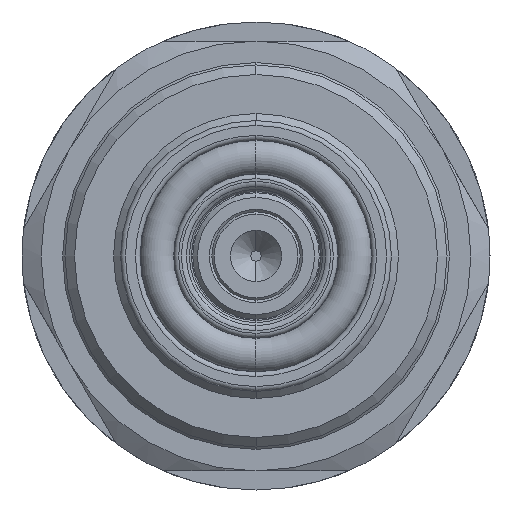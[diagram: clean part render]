
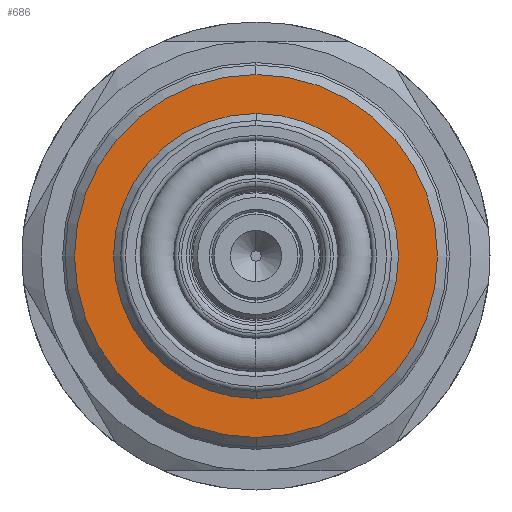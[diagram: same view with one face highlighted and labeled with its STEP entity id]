
A CAD part, left-side view. The second image highlights one B-rep face of the part: STEP entity #686.
In plain terms, the highlighted planar face has unit normal (-1, 0, 0).
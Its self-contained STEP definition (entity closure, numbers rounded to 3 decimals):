
#83 = CIRCLE ( 'NONE', #950, 5.969 ) ;
#95 = CIRCLE ( 'NONE', #984, 7.6 ) ;
#107 = CIRCLE ( 'NONE', #975, 7.6 ) ;
#190 = FACE_OUTER_BOUND ( 'NONE', #3628, .T. ) ;
#206 = FACE_BOUND ( 'NONE', #3635, .T. ) ;
#686 = ADVANCED_FACE ( 'NONE', ( #206, #190 ), #1120, .T. ) ;
#950 = AXIS2_PLACEMENT_3D ( 'NONE', #2659, #2660, #2663 ) ;
#959 = AXIS2_PLACEMENT_3D ( 'NONE', #2722, #2725, #2727 ) ;
#975 = AXIS2_PLACEMENT_3D ( 'NONE', #2591, #2594, #2595 ) ;
#984 = AXIS2_PLACEMENT_3D ( 'NONE', #2634, #2635, #2656 ) ;
#1092 = DIRECTION ( 'NONE',  ( -1., 0., 0. ) ) ;
#1104 = CARTESIAN_POINT ( 'NONE',  ( -1.503, 0., 0. ) ) ;
#1113 = DIRECTION ( 'NONE',  ( 0., 0., 1. ) ) ;
#1120 = PLANE ( 'NONE',  #1993 ) ;
#1593 = CIRCLE ( 'NONE', #959, 5.969 ) ;
#1993 = AXIS2_PLACEMENT_3D ( 'NONE', #1104, #1092, #1113 ) ;
#2142 = ORIENTED_EDGE ( 'NONE', *, *, #2429, .F. ) ;
#2149 = ORIENTED_EDGE ( 'NONE', *, *, #2416, .F. ) ;
#2166 = ORIENTED_EDGE ( 'NONE', *, *, #2427, .T. ) ;
#2176 = ORIENTED_EDGE ( 'NONE', *, *, #2461, .T. ) ;
#2416 = EDGE_CURVE ( 'NONE', #3398, #3407, #107, .T. ) ;
#2427 = EDGE_CURVE ( 'NONE', #3404, #3391, #83, .T. ) ;
#2429 = EDGE_CURVE ( 'NONE', #3407, #3398, #95, .T. ) ;
#2461 = EDGE_CURVE ( 'NONE', #3391, #3404, #1593, .T. ) ;
#2591 = CARTESIAN_POINT ( 'NONE',  ( -1.503, 0., 0. ) ) ;
#2594 = DIRECTION ( 'NONE',  ( 1., 0., 0. ) ) ;
#2595 = DIRECTION ( 'NONE',  ( 0., 0., -1. ) ) ;
#2634 = CARTESIAN_POINT ( 'NONE',  ( -1.503, 0., 0. ) ) ;
#2635 = DIRECTION ( 'NONE',  ( 1., 0., 0. ) ) ;
#2656 = DIRECTION ( 'NONE',  ( 0., 0., -1. ) ) ;
#2659 = CARTESIAN_POINT ( 'NONE',  ( -1.503, 0., 0. ) ) ;
#2660 = DIRECTION ( 'NONE',  ( 1., 0., 0. ) ) ;
#2663 = DIRECTION ( 'NONE',  ( 0., 0., -1. ) ) ;
#2722 = CARTESIAN_POINT ( 'NONE',  ( -1.503, 0., 0. ) ) ;
#2725 = DIRECTION ( 'NONE',  ( 1., 0., 0. ) ) ;
#2727 = DIRECTION ( 'NONE',  ( 0., 0., -1. ) ) ;
#2776 = CARTESIAN_POINT ( 'NONE',  ( -1.503, 0., -5.969 ) ) ;
#2791 = CARTESIAN_POINT ( 'NONE',  ( -1.503, 0., -7.6 ) ) ;
#2818 = CARTESIAN_POINT ( 'NONE',  ( -1.503, 0., 5.969 ) ) ;
#2831 = CARTESIAN_POINT ( 'NONE',  ( -1.503, 0., 7.6 ) ) ;
#3391 = VERTEX_POINT ( 'NONE', #2776 ) ;
#3398 = VERTEX_POINT ( 'NONE', #2791 ) ;
#3404 = VERTEX_POINT ( 'NONE', #2818 ) ;
#3407 = VERTEX_POINT ( 'NONE', #2831 ) ;
#3628 = EDGE_LOOP ( 'NONE', ( #2149, #2142 ) ) ;
#3635 = EDGE_LOOP ( 'NONE', ( #2176, #2166 ) ) ;
